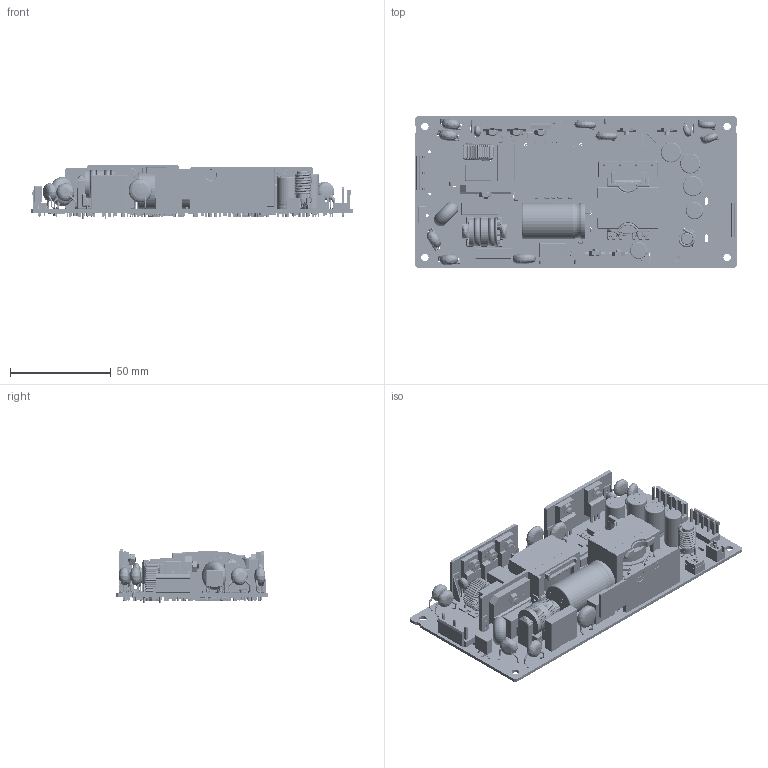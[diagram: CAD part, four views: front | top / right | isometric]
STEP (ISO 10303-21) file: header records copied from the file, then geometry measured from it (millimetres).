
FILE_DESCRIPTION((''),'2;1');
FILE_NAME('STP_PJ-XXV150WDRA_ASM','2024-12-19T16:33:49',('EUNICE.HUANG'),(''),'CREO PARAMETRIC BY PTC INC, 2023294','CREO PARAMETRIC BY PTC INC, 2023294','');
FILE_SCHEMA(('AUTOMOTIVE_DESIGN { 1 0 10303 214 1 1 1 1 }'));
Products named in the file (368): BOARD_1; 0602304110_1; VR131_ASM_1_ASM; 1552491286-16854_1; 1552491286-16844_ASM_1_ASM; C48_ASM_1_ASM; 0341041342-BODY_1; 0341041342-COATING_1; 0341041342_ASM_1_ASM; R78_ASM_1_ASM; 0910100616_NTC11_5X5X15D08P5-AI; NTC1_ASM_1_ASM; 204840750107_1; D33_ASM_1_ASM; 0361296506-BODY_1; 0361296506-COATING_1; 0361296506_ASM_1_ASM; R45_ASM_1_ASM; PIN_1_1_1; 334830140102_1_1_1; RIGHT_ANGLE_1_1_1_1; 334830140102_ASM_1_ASM_1_ASM_AS_ASM; M3_L8_1-26181_1; NUT-241_1-31964_1; M3L8_ASM_2_ASM_ASM_1_ASM; 334-HS100_ASM_1_ASM_ASM_1_ASM; 334-HS100_ASM_ASM_1_ASM; 334-HS100_ASM_1_ASM; HS100_ASM_1_ASM; L_PIN_L_1; 3348122100-33555_1; I_PIN_1; M3_L8_1; NUT-241_1; M3L8_ASM_ASM_1_ASM; 3348122100-32804_ASM_1_ASM; HS2_ASM_1_ASM; 0343270142-BODY_1; 0343270142-COATING_1; 0343270142_ASM_1_ASM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
Assembly tree (522 placements, depth 9):
  STP_PJ-XXV150WDRA_ASM
    PJ-24V150WDRA_R2C0_ASM_1_ASM
      PCB_ASM_1_ASM
        BOARD_1
        VR131_ASM_1_ASM
          0602304110_1
        C48_ASM_1_ASM
          1552491286-16844_ASM_1_ASM
            1552491286-16854_1
        R78_ASM_1_ASM
          0341041342_ASM_1_ASM
            0341041342-BODY_1
            0341041342-COATING_1
        NTC1_ASM_1_ASM
          0910100616_NTC11_5X5X15D08P5-AI
        D33_ASM_1_ASM
          204840750107_1
        R45_ASM_1_ASM
          0361296506_ASM_1_ASM
            0361296506-BODY_1
            0361296506-COATING_1
        HS100_ASM_1_ASM
          334-HS100_ASM_1_ASM
            334-HS100_ASM_ASM_1_ASM
              334-HS100_ASM_1_ASM_ASM_1_ASM
                334830140102_ASM_1_ASM_1_ASM_AS_ASM
                  PIN_1_1_1
                  334830140102_1_1_1
                  RIGHT_ANGLE_1_1_1_1
                M3L8_ASM_2_ASM_ASM_1_ASM  x2
                  M3_L8_1-26181_1
                  NUT-241_1-31964_1
        HS2_ASM_1_ASM
          3348122100-32804_ASM_1_ASM
            L_PIN_L_1
            3348122100-33555_1
            I_PIN_1
            M3L8_ASM_ASM_1_ASM  x3
              M3_L8_1
              NUT-241_1
        R36_ASM_1_ASM
          0343270142_ASM_1_ASM
            0343270142-BODY_1
            0343270142-COATING_1
        L1_ASM_1_ASM
          2876443201_ASM_1_ASM
            CRV-NB21059_ASM_3_ASM_ASM_1_ASM
              WIRE_4_ASM_ASM_1_ASM
                WIRE_4_1_1
                WIRE_4_2_1
              3175585300_BASE_6_ASM_ASM_1_ASM
                3175585300_BASE_6_1_1
                3175585300_BASE_6_2_1
                3175585300_BASE_6_3_1
        C15_ASM_1_ASM
          1101046264_1
        R145_ASM_1_ASM
          0311072032_ASM_1_ASM
            0311072032_ASM_1_1_2_3_ASM_ASM__ASM
              0313000032-BOBY_1_1_2_3_1
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Bounding box: 160 x 75 x 26.51 mm (x, y, z)
Volume: 87756.9 mm3; surface area: 99204.6 mm2
Topology: 372 solids, 376 shells, 10778 faces, 27399 edges, 17311 vertices
Faces by surface type: plane 5503, cylinder 3367, torus 974, bspline 529, sphere 217, cone 160, revolution 22, extrusion 6
Entity records: 360754 total; most frequent: CARTESIAN_POINT 144605, DIRECTION 35350, ORIENTED_EDGE 32388, EDGE_CURVE 16194, AXIS2_PLACEMENT_3D 13395, PRESENTATION_STYLE_ASSIGNMENT 12550, STYLED_ITEM 12090, CURVE_STYLE 11141
